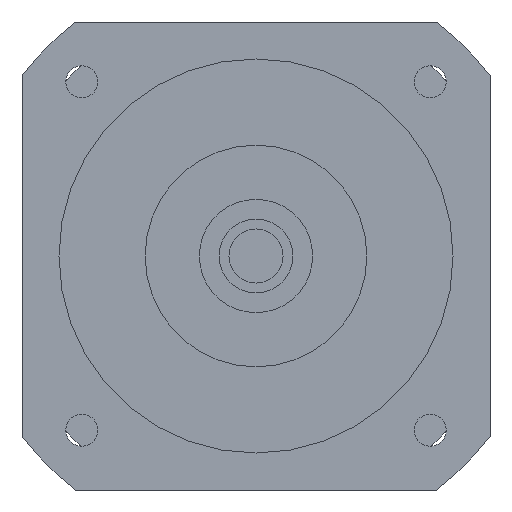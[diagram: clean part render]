
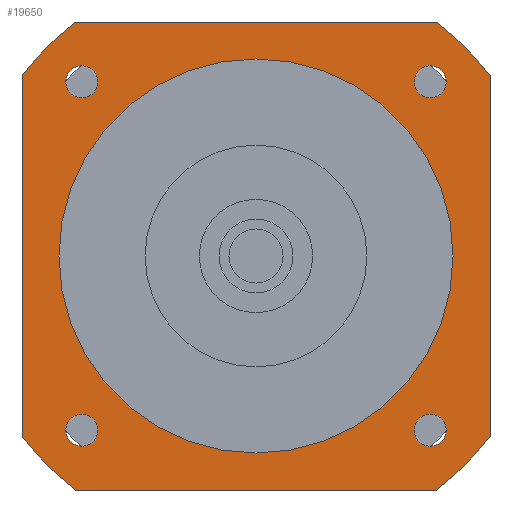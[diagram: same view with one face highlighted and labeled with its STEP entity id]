
A CAD part, left-side view. The second image highlights one B-rep face of the part: STEP entity #19650.
In plain terms, the highlighted planar face has unit normal (-1, 0, 0) as drawn and (0, 0, -1) by its records, which use the part's own axes.
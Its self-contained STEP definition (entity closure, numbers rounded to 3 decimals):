
#13830=CARTESIAN_POINT('',(47.5,36.657,-43.));
#13840=VERTEX_POINT('',#13830);
#13890=CARTESIAN_POINT('',(47.5,47.5,-43.));
#13900=DIRECTION('',(0.,-1.,0.));
#13910=VECTOR('',#13900,1000.);
#13920=LINE('',#13890,#13910);
#13930=CARTESIAN_POINT('',(47.5,-36.657,-43.));
#13940=VERTEX_POINT('',#13930);
#13950=EDGE_CURVE('',#13840,#13940,#13920,.T.);
#18070=CARTESIAN_POINT('',(-32.105,35.355,-43.));
#18080=VERTEX_POINT('',#18070);
#18110=CARTESIAN_POINT('',(-35.355,35.355,-43.));
#18120=DIRECTION('',(0.,0.,-1.));
#18130=DIRECTION('',(-1.,0.,0.));
#18140=AXIS2_PLACEMENT_3D('',#18110,#18120,#18130);
#18150=CIRCLE('',#18140,3.25);
#18160=CARTESIAN_POINT('',(-38.605,35.355,-43.));
#18170=VERTEX_POINT('',#18160);
#18180=EDGE_CURVE('',#18170,#18080,#18150,.T.);
#18300=CARTESIAN_POINT('',(47.5,47.5,-43.));
#18310=DIRECTION('',(0.,0.,-1.));
#18320=DIRECTION('',(1.,0.,0.));
#18330=AXIS2_PLACEMENT_3D('',#18300,#18310,#18320);
#18340=PLANE('',#18330);
#18350=ORIENTED_EDGE('',*,*,#18180,.F.);
#18360=EDGE_CURVE('',#18080,#18170,#18150,.T.);
#18370=ORIENTED_EDGE('',*,*,#18360,.F.);
#18380=EDGE_LOOP('',(#18370,#18350));
#18390=FACE_BOUND('',#18380,.T.);
#18400=CARTESIAN_POINT('',(35.355,35.355,-43.));
#18410=DIRECTION('',(0.,0.,-1.));
#18420=DIRECTION('',(0.,1.,0.));
#18430=AXIS2_PLACEMENT_3D('',#18400,#18410,#18420);
#18440=CIRCLE('',#18430,3.25);
#18450=CARTESIAN_POINT('',(35.355,38.605,-43.));
#18460=VERTEX_POINT('',#18450);
#18470=CARTESIAN_POINT('',(35.355,32.105,-43.));
#18480=VERTEX_POINT('',#18470);
#18490=EDGE_CURVE('',#18460,#18480,#18440,.T.);
#18500=ORIENTED_EDGE('',*,*,#18490,.F.);
#18510=EDGE_CURVE('',#18480,#18460,#18440,.T.);
#18520=ORIENTED_EDGE('',*,*,#18510,.F.);
#18530=EDGE_LOOP('',(#18520,#18500));
#18540=FACE_BOUND('',#18530,.T.);
#18550=CARTESIAN_POINT('',(0.,0.,
-43.));
#18560=DIRECTION('',(0.,0.,1.));
#18570=DIRECTION('',(0.,1.,0.));
#18580=AXIS2_PLACEMENT_3D('',#18550,#18560,#18570);
#18590=CIRCLE('',#18580,40.);
#18600=CARTESIAN_POINT('',(-40.,0.,-43.));
#18610=VERTEX_POINT('',#18600);
#18620=CARTESIAN_POINT('',(40.,0.,-43.));
#18630=VERTEX_POINT('',#18620);
#18640=EDGE_CURVE('',#18610,#18630,#18590,.T.);
#18650=ORIENTED_EDGE('',*,*,#18640,.T.);
#18660=CARTESIAN_POINT('',(0.,40.,-43.));
#18670=VERTEX_POINT('',#18660);
#18680=EDGE_CURVE('',#18670,#18610,#18590,.T.);
#18690=ORIENTED_EDGE('',*,*,#18680,.T.);
#18700=EDGE_CURVE('',#18630,#18670,#18590,.T.);
#18710=ORIENTED_EDGE('',*,*,#18700,.T.);
#18720=EDGE_LOOP('',(#18710,#18690,#18650));
#18730=FACE_BOUND('',#18720,.T.);
#18740=CARTESIAN_POINT('',(35.355,-35.355,-43.));
#18750=DIRECTION('',(0.,0.,-1.));
#18760=DIRECTION('',(1.,0.,0.));
#18770=AXIS2_PLACEMENT_3D('',#18740,#18750,#18760);
#18780=CIRCLE('',#18770,3.25);
#18790=CARTESIAN_POINT('',(38.605,-35.355,-43.));
#18800=VERTEX_POINT('',#18790);
#18810=CARTESIAN_POINT('',(32.105,-35.355,-43.));
#18820=VERTEX_POINT('',#18810);
#18830=EDGE_CURVE('',#18800,#18820,#18780,.T.);
#18840=ORIENTED_EDGE('',*,*,#18830,.F.);
#18850=EDGE_CURVE('',#18820,#18800,#18780,.T.);
#18860=ORIENTED_EDGE('',*,*,#18850,.F.);
#18870=EDGE_LOOP('',(#18860,#18840));
#18880=FACE_BOUND('',#18870,.T.);
#18890=CARTESIAN_POINT('',(-35.355,-35.355,-43.));
#18900=DIRECTION('',(0.,0.,-1.));
#18910=DIRECTION('',(0.,-1.,0.));
#18920=AXIS2_PLACEMENT_3D('',#18890,#18900,#18910);
#18930=CIRCLE('',#18920,3.25);
#18940=CARTESIAN_POINT('',(-35.355,-38.605,-43.));
#18950=VERTEX_POINT('',#18940);
#18960=CARTESIAN_POINT('',(-35.355,-32.105,-43.));
#18970=VERTEX_POINT('',#18960);
#18980=EDGE_CURVE('',#18950,#18970,#18930,.T.);
#18990=ORIENTED_EDGE('',*,*,#18980,.F.);
#19000=EDGE_CURVE('',#18970,#18950,#18930,.T.);
#19010=ORIENTED_EDGE('',*,*,#19000,.F.);
#19020=EDGE_LOOP('',(#19010,#18990));
#19030=FACE_BOUND('',#19020,.T.);
#19040=CARTESIAN_POINT('',(-47.5,47.5,-43.));
#19050=DIRECTION('',(1.,0.,0.));
#19060=VECTOR('',#19050,1000.);
#19070=LINE('',#19040,#19060);
#19080=CARTESIAN_POINT('',(-36.657,47.5,-43.));
#19090=VERTEX_POINT('',#19080);
#19100=CARTESIAN_POINT('',(36.657,47.5,-43.));
#19110=VERTEX_POINT('',#19100);
#19120=EDGE_CURVE('',#19090,#19110,#19070,.T.);
#19130=ORIENTED_EDGE('',*,*,#19120,.T.);
#19140=CARTESIAN_POINT('',(0.,0.,-43.));
#19150=DIRECTION('',(0.,0.,-1.));
#19160=DIRECTION('',(1.,0.,0.));
#19170=AXIS2_PLACEMENT_3D('',#19140,#19150,#19160);
#19180=CIRCLE('',#19170,60.);
#19190=CARTESIAN_POINT('',(-47.5,36.657,-43.));
#19200=VERTEX_POINT('',#19190);
#19210=EDGE_CURVE('',#19200,#19090,#19180,.T.);
#19220=ORIENTED_EDGE('',*,*,#19210,.T.);
#19230=CARTESIAN_POINT('',(-47.5,-47.5,-43.));
#19240=DIRECTION('',(0.,1.,0.));
#19250=VECTOR('',#19240,1000.);
#19260=LINE('',#19230,#19250);
#19270=CARTESIAN_POINT('',(-47.5,-36.657,-43.));
#19280=VERTEX_POINT('',#19270);
#19290=EDGE_CURVE('',#19280,#19200,#19260,.T.);
#19300=ORIENTED_EDGE('',*,*,#19290,.T.);
#19310=CARTESIAN_POINT('',(0.,0.,-43.));
#19320=DIRECTION('',(0.,0.,-1.));
#19330=DIRECTION('',(1.,0.,0.));
#19340=AXIS2_PLACEMENT_3D('',#19310,#19320,#19330);
#19350=CIRCLE('',#19340,60.);
#19360=CARTESIAN_POINT('',(-36.657,-47.5,-43.));
#19370=VERTEX_POINT('',#19360);
#19380=EDGE_CURVE('',#19370,#19280,#19350,.T.);
#19390=ORIENTED_EDGE('',*,*,#19380,.T.);
#19400=CARTESIAN_POINT('',(47.5,-47.5,-43.));
#19410=DIRECTION('',(-1.,0.,0.));
#19420=VECTOR('',#19410,1000.);
#19430=LINE('',#19400,#19420);
#19440=CARTESIAN_POINT('',(36.657,-47.5,-43.));
#19450=VERTEX_POINT('',#19440);
#19460=EDGE_CURVE('',#19450,#19370,#19430,.T.);
#19470=ORIENTED_EDGE('',*,*,#19460,.T.);
#19480=CARTESIAN_POINT('',(0.,0.,-43.));
#19490=DIRECTION('',(0.,0.,-1.));
#19500=DIRECTION('',(1.,0.,0.));
#19510=AXIS2_PLACEMENT_3D('',#19480,#19490,#19500);
#19520=CIRCLE('',#19510,60.);
#19530=EDGE_CURVE('',#13940,#19450,#19520,.T.);
#19540=ORIENTED_EDGE('',*,*,#19530,.T.);
#19550=ORIENTED_EDGE('',*,*,#13950,.T.);
#19560=CARTESIAN_POINT('',(0.,0.,-43.));
#19570=DIRECTION('',(0.,0.,-1.));
#19580=DIRECTION('',(1.,0.,0.));
#19590=AXIS2_PLACEMENT_3D('',#19560,#19570,#19580);
#19600=CIRCLE('',#19590,60.);
#19610=EDGE_CURVE('',#19110,#13840,#19600,.T.);
#19620=ORIENTED_EDGE('',*,*,#19610,.T.);
#19630=EDGE_LOOP('',(#19620,#19550,#19540,#19470,#19390,#19300,#19220,
#19130));
#19640=FACE_OUTER_BOUND('',#19630,.T.);
#19650=ADVANCED_FACE('',(#18390,#18540,#18730,#18880,#19030,#19640),
#18340,.T.);
